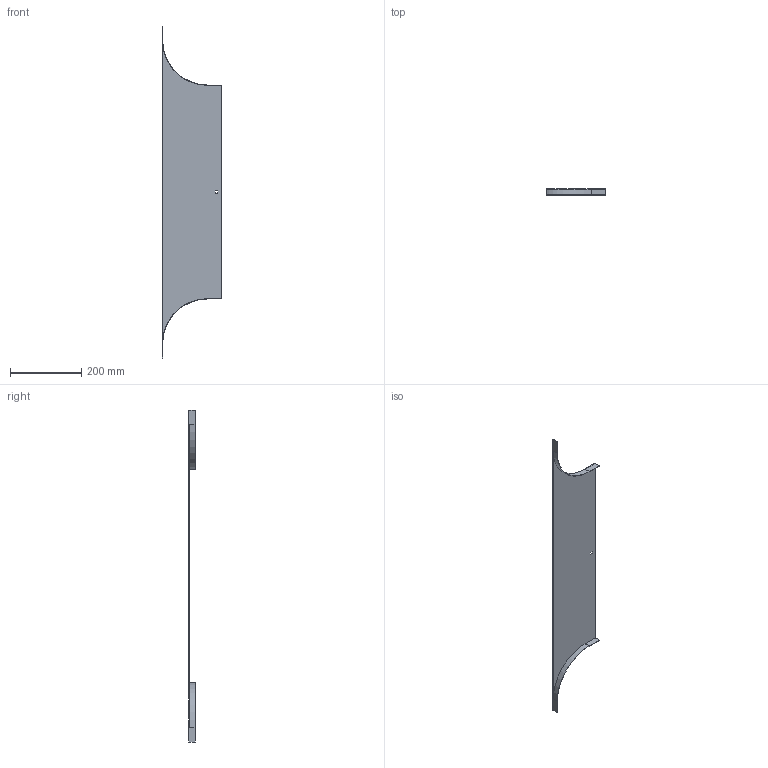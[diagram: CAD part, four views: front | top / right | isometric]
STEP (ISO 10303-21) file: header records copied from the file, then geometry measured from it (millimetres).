
FILE_DESCRIPTION (( 'STEP AP214' ), '1' );
FILE_NAME ('ORL_600.step', '2025-07-16T09:16:12', ( '' ), ( '' ), 'SwSTEP 2.0', 'SolidWorks 2023', '' );
FILE_SCHEMA (( 'AUTOMOTIVE_DESIGN' ));
Length unit declared in the file: millimetre
Products named in the file (1): ORL_600
Bounding box: 167 x 17 x 934 mm (x, y, z)
Volume: 116556.6 mm3; surface area: 235297.1 mm2
Topology: 1 solids, 1 shells, 22 faces, 60 edges, 40 vertices
Faces by surface type: plane 18, cylinder 4
Entity records: 719 total; most frequent: CARTESIAN_POINT 123, ORIENTED_EDGE 120, DIRECTION 114, EDGE_CURVE 60, LINE 52, VECTOR 52, VERTEX_POINT 40, AXIS2_PLACEMENT_3D 31
